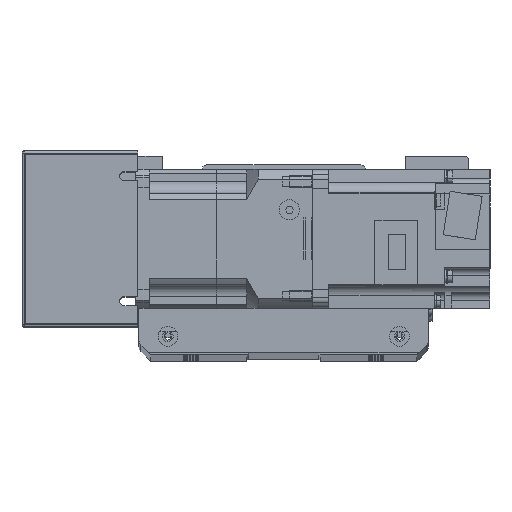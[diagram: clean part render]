
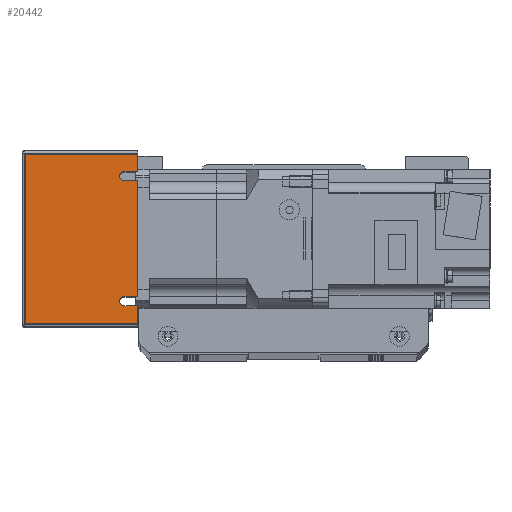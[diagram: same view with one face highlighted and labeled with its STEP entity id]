
A CAD part, top view. The second image highlights one B-rep face of the part: STEP entity #20442.
In plain terms, the highlighted planar face has unit normal (0, 0, 1) as drawn and (-1, 0, 0) by its records, which use the part's own axes.
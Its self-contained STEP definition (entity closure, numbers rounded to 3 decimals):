
#706=PLANE('',#22672);
#2036=LINE('',#34646,#3660);
#2045=LINE('',#34665,#3669);
#2052=LINE('',#34682,#3676);
#2060=LINE('',#34700,#3684);
#2073=LINE('',#34739,#3697);
#2078=LINE('',#34751,#3702);
#2082=LINE('',#34763,#3706);
#2085=LINE('',#34773,#3709);
#2086=LINE('',#34775,#3710);
#2087=LINE('',#34776,#3711);
#3660=VECTOR('',#28097,10.);
#3669=VECTOR('',#28110,10.);
#3676=VECTOR('',#28121,10.);
#3684=VECTOR('',#28133,10.);
#3697=VECTOR('',#28176,10.);
#3702=VECTOR('',#28187,10.);
#3706=VECTOR('',#28197,10.);
#3709=VECTOR('',#28208,10.);
#3710=VECTOR('',#28209,10.);
#3711=VECTOR('',#28210,10.);
#6118=FACE_OUTER_BOUND('',#7790,.T.);
#7790=EDGE_LOOP('',(#18351,#18352,#18353,#18354,#18355,#18356,#18357,#18358,
#18359,#18360,#18361,#18362));
#8966=CIRCLE('',#22650,2.);
#8971=CIRCLE('',#22658,2.);
#10691=VERTEX_POINT('',#34643);
#10692=VERTEX_POINT('',#34645);
#10698=VERTEX_POINT('',#34659);
#10700=VERTEX_POINT('',#34663);
#10707=VERTEX_POINT('',#34679);
#10708=VERTEX_POINT('',#34681);
#10715=VERTEX_POINT('',#34697);
#10716=VERTEX_POINT('',#34699);
#10727=VERTEX_POINT('',#34737);
#10736=VERTEX_POINT('',#34762);
#10739=VERTEX_POINT('',#34772);
#10740=VERTEX_POINT('',#34774);
#13278=EDGE_CURVE('',#10692,#10691,#2036,.T.);
#13287=EDGE_CURVE('',#10698,#10700,#2045,.T.);
#13294=EDGE_CURVE('',#10708,#10707,#2052,.T.);
#13302=EDGE_CURVE('',#10716,#10715,#2060,.T.);
#13308=EDGE_CURVE('',#10700,#10692,#8966,.T.);
#13319=EDGE_CURVE('',#10715,#10708,#8971,.T.);
#13324=EDGE_CURVE('',#10727,#10707,#2073,.T.);
#13331=EDGE_CURVE('',#10716,#10691,#2078,.T.);
#13337=EDGE_CURVE('',#10698,#10736,#2082,.T.);
#13342=EDGE_CURVE('',#10739,#10727,#2085,.T.);
#13343=EDGE_CURVE('',#10740,#10739,#2086,.T.);
#13344=EDGE_CURVE('',#10736,#10740,#2087,.T.);
#18351=ORIENTED_EDGE('',*,*,#13278,.T.);
#18352=ORIENTED_EDGE('',*,*,#13331,.F.);
#18353=ORIENTED_EDGE('',*,*,#13302,.T.);
#18354=ORIENTED_EDGE('',*,*,#13319,.T.);
#18355=ORIENTED_EDGE('',*,*,#13294,.T.);
#18356=ORIENTED_EDGE('',*,*,#13324,.F.);
#18357=ORIENTED_EDGE('',*,*,#13342,.F.);
#18358=ORIENTED_EDGE('',*,*,#13343,.F.);
#18359=ORIENTED_EDGE('',*,*,#13344,.F.);
#18360=ORIENTED_EDGE('',*,*,#13337,.F.);
#18361=ORIENTED_EDGE('',*,*,#13287,.T.);
#18362=ORIENTED_EDGE('',*,*,#13308,.T.);
#20442=ADVANCED_FACE('',(#6118),#706,.T.);
#22650=AXIS2_PLACEMENT_3D('',#34712,#28143,#28144);
#22658=AXIS2_PLACEMENT_3D('',#34730,#28165,#28166);
#22672=AXIS2_PLACEMENT_3D('',#34771,#28206,#28207);
#28097=DIRECTION('',(0.,0.,1.));
#28110=DIRECTION('',(0.,0.,-1.));
#28121=DIRECTION('',(0.,0.,1.));
#28133=DIRECTION('',(0.,0.,-1.));
#28143=DIRECTION('center_axis',(1.,0.,0.));
#28144=DIRECTION('ref_axis',(0.,0.,1.));
#28165=DIRECTION('center_axis',(1.,0.,0.));
#28166=DIRECTION('ref_axis',(0.,0.,1.));
#28176=DIRECTION('',(0.,-1.,0.));
#28187=DIRECTION('',(0.,-1.,0.));
#28197=DIRECTION('',(0.,-1.,0.));
#28206=DIRECTION('center_axis',(-1.,0.,0.));
#28207=DIRECTION('ref_axis',(0.,-1.,0.));
#28208=DIRECTION('',(0.,0.,1.));
#28209=DIRECTION('',(0.,1.,0.));
#28210=DIRECTION('',(0.,0.,-1.));
#34643=CARTESIAN_POINT('',(-91.,-25.,25.));
#34645=CARTESIAN_POINT('',(-91.,-25.,19.));
#34646=CARTESIAN_POINT('',(-91.,-25.,9.5));
#34659=CARTESIAN_POINT('',(-91.,-29.,25.));
#34663=CARTESIAN_POINT('',(-91.,-29.,19.));
#34665=CARTESIAN_POINT('',(-91.,-29.,15.178));
#34679=CARTESIAN_POINT('',(-91.,29.,25.));
#34681=CARTESIAN_POINT('',(-91.,29.,19.));
#34682=CARTESIAN_POINT('',(-91.,29.,9.5));
#34697=CARTESIAN_POINT('',(-91.,25.,19.));
#34699=CARTESIAN_POINT('',(-91.,25.,25.));
#34700=CARTESIAN_POINT('',(-91.,25.,15.178));
#34712=CARTESIAN_POINT('Origin',(-91.,-27.,19.));
#34730=CARTESIAN_POINT('Origin',(-91.,27.,19.));
#34737=CARTESIAN_POINT('',(-91.,37.,25.));
#34739=CARTESIAN_POINT('',(-91.,-38.,25.));
#34751=CARTESIAN_POINT('',(-91.,-38.,25.));
#34762=CARTESIAN_POINT('',(-91.,-37.,25.));
#34763=CARTESIAN_POINT('',(-91.,-38.,25.));
#34771=CARTESIAN_POINT('Origin',(-91.,38.,0.));
#34772=CARTESIAN_POINT('',(-91.,37.,-24.));
#34773=CARTESIAN_POINT('',(-91.,37.,0.));
#34774=CARTESIAN_POINT('',(-91.,-37.,-24.));
#34775=CARTESIAN_POINT('',(-91.,19.,-24.));
#34776=CARTESIAN_POINT('',(-91.,-37.,0.));
